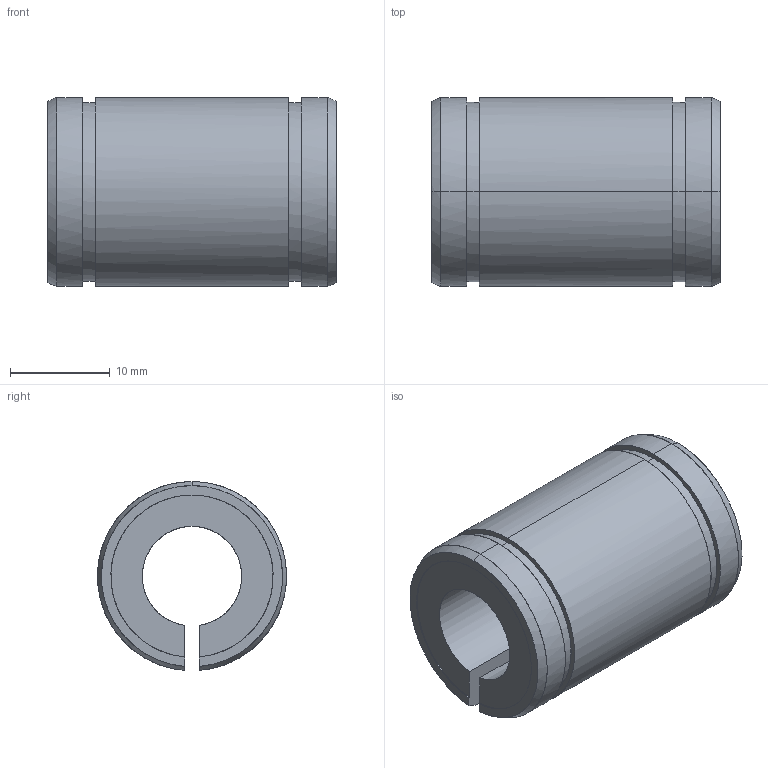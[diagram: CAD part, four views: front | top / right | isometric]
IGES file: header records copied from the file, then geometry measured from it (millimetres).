
Global section: file name: No Iges File Name specified; native system: AutoDesk Inventor R10; preprocessor: AutoDesk Inventor Iges Exporter R10; author: No Author specified; organization: No Organization specified; date: 20101208.095806; units: millimetre
Bounding box: 29 x 18.99 x 18.97 mm (x, y, z)
Surface area: 3280.3 mm2 (no closed solid volume)
Topology: 0 solids, 0 shells, 30 faces, 252 edges, 252 vertices
Faces by surface type: bspline 30
